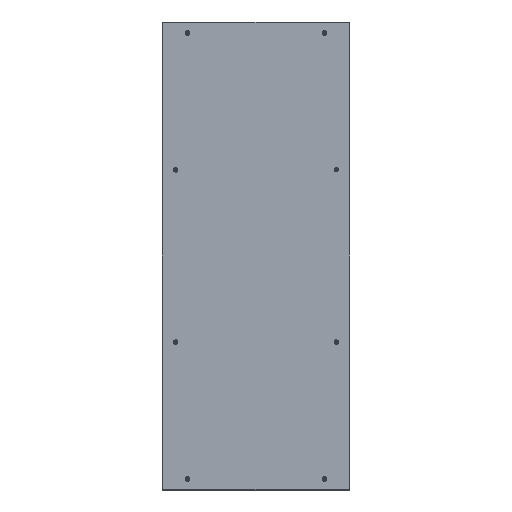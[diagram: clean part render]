
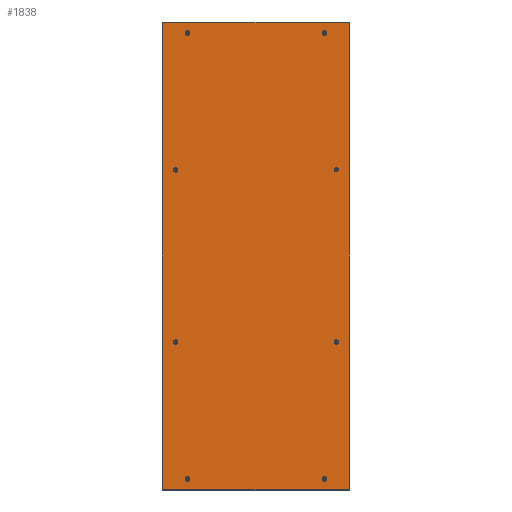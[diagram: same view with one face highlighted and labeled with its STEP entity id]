
A CAD part, left-side view. The second image highlights one B-rep face of the part: STEP entity #1838.
In plain terms, the highlighted planar face has unit normal (-1, 0, 0).
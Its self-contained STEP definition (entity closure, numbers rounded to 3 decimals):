
#1838=ADVANCED_FACE('',(#2386,#2388,#2390,#2392,#2394,#2396,#2398,#2400,#2402),#2404,
.F.);
#2386=FACE_BOUND('',#2387,.T.);
#2387=EDGE_LOOP('',(#6957,#6958,#6959,#6960));
#2388=FACE_BOUND('',#2389,.T.);
#2389=EDGE_LOOP('',(#6961));
#2390=FACE_BOUND('',#2391,.T.);
#2391=EDGE_LOOP('',(#6962));
#2392=FACE_BOUND('',#2393,.T.);
#2393=EDGE_LOOP('',(#6963));
#2394=FACE_BOUND('',#2395,.T.);
#2395=EDGE_LOOP('',(#6964));
#2396=FACE_BOUND('',#2397,.T.);
#2397=EDGE_LOOP('',(#6965));
#2398=FACE_BOUND('',#2399,.T.);
#2399=EDGE_LOOP('',(#6966));
#2400=FACE_BOUND('',#2401,.T.);
#2401=EDGE_LOOP('',(#6967));
#2402=FACE_BOUND('',#2403,.T.);
#2403=EDGE_LOOP('',(#6968));
#2404=PLANE('',#2405);
#2405=AXIS2_PLACEMENT_3D('',#2406,#2407,#2408);
#2406=CARTESIAN_POINT('',(0.,0.,0.));
#2407=DIRECTION('',(1.,0.,0.));
#2408=DIRECTION('',(0.,1.,0.));
#6957=ORIENTED_EDGE('',*,*,#8157,.T.);
#6958=ORIENTED_EDGE('',*,*,#8158,.T.);
#6959=ORIENTED_EDGE('',*,*,#8159,.T.);
#6960=ORIENTED_EDGE('',*,*,#8160,.T.);
#6961=ORIENTED_EDGE('',*,*,#8161,.T.);
#6962=ORIENTED_EDGE('',*,*,#8162,.T.);
#6963=ORIENTED_EDGE('',*,*,#8163,.T.);
#6964=ORIENTED_EDGE('',*,*,#8164,.T.);
#6965=ORIENTED_EDGE('',*,*,#8165,.T.);
#6966=ORIENTED_EDGE('',*,*,#8166,.T.);
#6967=ORIENTED_EDGE('',*,*,#8167,.T.);
#6968=ORIENTED_EDGE('',*,*,#8168,.T.);
#8157=EDGE_CURVE('',#8819,#8820,#8821,.T.);
#8158=EDGE_CURVE('',#8820,#8822,#8823,.T.);
#8159=EDGE_CURVE('',#8822,#8824,#8825,.T.);
#8160=EDGE_CURVE('',#8824,#8819,#8826,.T.);
#8161=EDGE_CURVE('',#8827,#8827,#8828,.T.);
#8162=EDGE_CURVE('',#8829,#8829,#8830,.T.);
#8163=EDGE_CURVE('',#8831,#8831,#8832,.T.);
#8164=EDGE_CURVE('',#8833,#8833,#8834,.T.);
#8165=EDGE_CURVE('',#8835,#8835,#8836,.T.);
#8166=EDGE_CURVE('',#8837,#8837,#8838,.T.);
#8167=EDGE_CURVE('',#8839,#8839,#8840,.T.);
#8168=EDGE_CURVE('',#8841,#8841,#8842,.T.);
#8819=VERTEX_POINT('',#10003);
#8820=VERTEX_POINT('',#10004);
#8821=LINE('',#10005,#10006);
#8822=VERTEX_POINT('',#10008);
#8823=LINE('',#10009,#10010);
#8824=VERTEX_POINT('',#10012);
#8825=LINE('',#10013,#10014);
#8826=LINE('',#10016,#10017);
#8827=VERTEX_POINT('',#10019);
#8828=CIRCLE('',#10020,9.25);
#8829=VERTEX_POINT('',#10024);
#8830=CIRCLE('',#10025,9.25);
#8831=VERTEX_POINT('',#10029);
#8832=CIRCLE('',#10030,9.25);
#8833=VERTEX_POINT('',#10034);
#8834=CIRCLE('',#10035,8.727);
#8835=VERTEX_POINT('',#10039);
#8836=CIRCLE('',#10040,9.25);
#8837=VERTEX_POINT('',#10044);
#8838=CIRCLE('',#10045,9.25);
#8839=VERTEX_POINT('',#10049);
#8840=CIRCLE('',#10050,9.25);
#8841=VERTEX_POINT('',#10054);
#8842=CIRCLE('',#10055,9.25);
#10003=CARTESIAN_POINT('',(0.,392.7,982.7));
#10004=CARTESIAN_POINT('',(0.,392.7,-982.7));
#10005=CARTESIAN_POINT('',(0.,392.7,982.7));
#10006=VECTOR('',#10007,1.);
#10007=DIRECTION('',(0.,0.,-1.));
#10008=CARTESIAN_POINT('',(0.,-392.7,-982.7));
#10009=CARTESIAN_POINT('',(0.,392.7,-982.7));
#10010=VECTOR('',#10011,1.);
#10011=DIRECTION('',(0.,-1.,0.));
#10012=CARTESIAN_POINT('',(0.,-392.7,982.7));
#10013=CARTESIAN_POINT('',(0.,-392.7,-982.7));
#10014=VECTOR('',#10015,1.);
#10015=DIRECTION('',(0.,0.,1.));
#10016=CARTESIAN_POINT('',(0.,-392.7,982.7));
#10017=VECTOR('',#10018,1.);
#10018=DIRECTION('',(0.,1.,0.));
#10019=CARTESIAN_POINT('',(0.,329.25,-362.5));
#10020=AXIS2_PLACEMENT_3D('',#10021,#10022,#10023);
#10021=CARTESIAN_POINT('',(0.,338.5,-362.5));
#10022=DIRECTION('',(1.,0.,0.));
#10023=DIRECTION('',(0.,-1.,0.));
#10024=CARTESIAN_POINT('',(0.,-347.75,-362.5));
#10025=AXIS2_PLACEMENT_3D('',#10026,#10027,#10028);
#10026=CARTESIAN_POINT('',(0.,-338.5,-362.5));
#10027=DIRECTION('',(1.,0.,0.));
#10028=DIRECTION('',(0.,-1.,0.));
#10029=CARTESIAN_POINT('',(0.,329.25,362.5));
#10030=AXIS2_PLACEMENT_3D('',#10031,#10032,#10033);
#10031=CARTESIAN_POINT('',(0.,338.5,362.5));
#10032=DIRECTION('',(1.,0.,0.));
#10033=DIRECTION('',(0.,-1.,0.));
#10034=CARTESIAN_POINT('',(0.,-347.227,362.5));
#10035=AXIS2_PLACEMENT_3D('',#10036,#10037,#10038);
#10036=CARTESIAN_POINT('',(0.,-338.5,362.5));
#10037=DIRECTION('',(1.,0.,0.));
#10038=DIRECTION('',(0.,-1.,0.));
#10039=CARTESIAN_POINT('',(0.,-278.25,939.));
#10040=AXIS2_PLACEMENT_3D('',#10041,#10042,#10043);
#10041=CARTESIAN_POINT('',(0.,-287.5,939.));
#10042=DIRECTION('',(1.,0.,0.));
#10043=DIRECTION('',(0.,1.,0.));
#10044=CARTESIAN_POINT('',(0.,296.75,939.));
#10045=AXIS2_PLACEMENT_3D('',#10046,#10047,#10048);
#10046=CARTESIAN_POINT('',(0.,287.5,939.));
#10047=DIRECTION('',(1.,0.,0.));
#10048=DIRECTION('',(0.,1.,0.));
#10049=CARTESIAN_POINT('',(0.,-278.25,-939.));
#10050=AXIS2_PLACEMENT_3D('',#10051,#10052,#10053);
#10051=CARTESIAN_POINT('',(0.,-287.5,-939.));
#10052=DIRECTION('',(1.,0.,0.));
#10053=DIRECTION('',(0.,1.,0.));
#10054=CARTESIAN_POINT('',(0.,296.75,-939.));
#10055=AXIS2_PLACEMENT_3D('',#10056,#10057,#10058);
#10056=CARTESIAN_POINT('',(0.,287.5,-939.));
#10057=DIRECTION('',(1.,0.,0.));
#10058=DIRECTION('',(0.,1.,0.));
